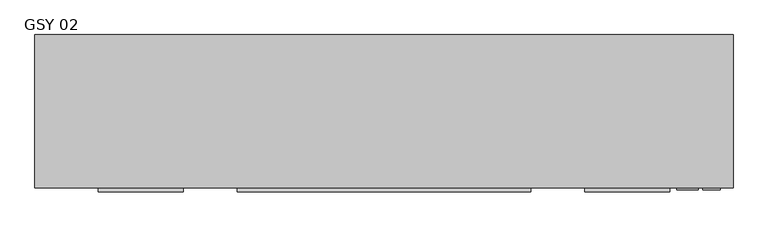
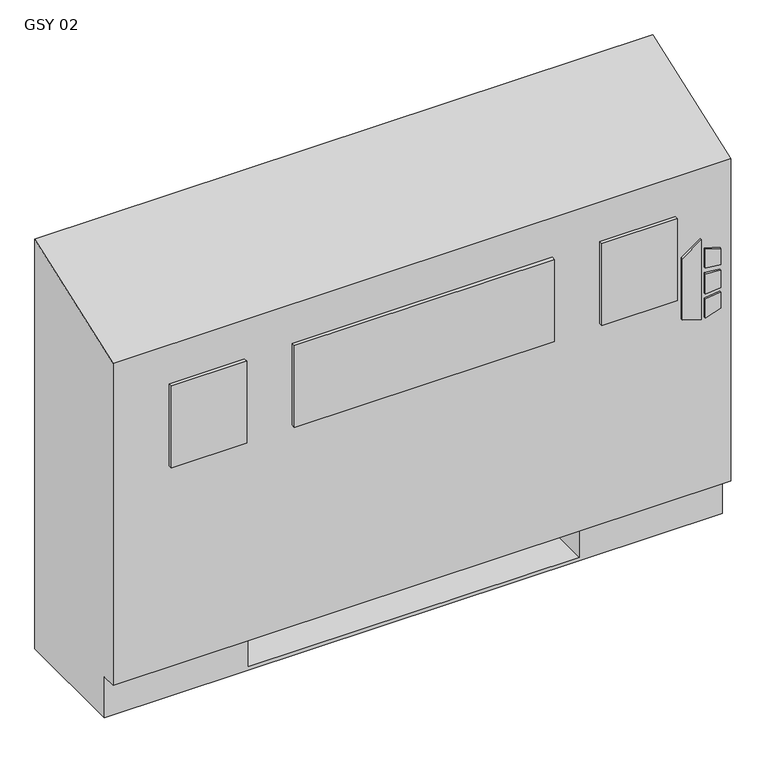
"""IFC4 building model written with IfcOpenShell, lengths in millimetres: proxy geometry, Vertical_Fan_Coil_Unit_-_GSY_-_IEC_-_2-Pipe_FS-FR_RH_2022 : GSY 02."""

from ifc_helpers import new_model, si_unit, point, frame, frame_2d, origin, place, context, project, spatial, polyline, circle_curve, trimmed, segment, composite_curve, outline, extrude, source, transform, mapped, element, save
from ifc_brep_helpers import plane_surface, revolved_surface, advanced_brep


def gsy_02_40d96003(model_context):
    return source(origin(), model_context, "Body", "SolidModel", [
        extrude(outline(polyline([(391.6086829, 589.0368862), (381.6606126, 621.2102728), (523.831537, 621.2102728), (500.8095309, 589.0368862), (391.6086829, 589.0368862)])), frame((0.0, 12.7, 0.0), z_axis=(0.0, 1.0, 0.0), x_axis=(0.0, 0.0, 1.0)), (0.0, 0.0, 1.0), 3.175),
        extrude(outline(polyline([(470.6079683, 627.9686058), (467.4055757, 654.05), (496.6344168, 654.05), (504.6988318, 627.9686058), (470.6079683, 627.9686058)])), frame((0.0, 12.7, 0.0), z_axis=(0.0, 1.0, 0.0), x_axis=(0.0, 0.0, 1.0)), (0.0, 0.0, 1.0), 3.175),
        extrude(outline(polyline([(418.7444414, 654.05), (415.0789404, 627.9686058), (381.6606126, 627.9686058), (390.2948498, 654.05), (418.7444414, 654.05)])), frame((0.0, 12.7, 0.0), z_axis=(0.0, 1.0, 0.0), x_axis=(0.0, 0.0, 1.0)), (0.0, 0.0, 1.0), 3.175),
        extrude(outline(polyline([(458.0596028, 654.05), (460.3414292, 627.9686058), (424.4038806, 627.9686058), (427.1451456, 654.05), (458.0596028, 654.05)])), frame((0.0, 12.7, 0.0), z_axis=(0.0, 1.0, 0.0), x_axis=(0.0, 0.0, 1.0)), (0.0, 0.0, 1.0), 3.175),
        extrude(outline(polyline([(-147.193, 9.525), (-274.193, 9.525), (-274.193, 15.875), (-147.193, 15.875), (-147.193, 9.525)])), frame((0.0, 0.0, 431.8), z_axis=(0.0, 0.0, 1.0), x_axis=(1.0, 0.0, 0.0)), (0.0, 0.0, 1.0), 146.05),
        extrude(outline(polyline([(371.475, 9.525), (-66.675, 9.525), (-66.675, 15.875), (371.475, 15.875), (371.475, 9.525)])), frame((0.0, 0.0, 431.8), z_axis=(0.0, 0.0, 1.0), x_axis=(1.0, 0.0, 0.0)), (0.0, 0.0, 1.0), 146.05),
        extrude(outline(polyline([(578.993, 9.525), (451.993, 9.525), (451.993, 15.875), (578.993, 15.875), (578.993, 9.525)])), frame((0.0, 0.0, 431.8), z_axis=(0.0, 0.0, 1.0), x_axis=(1.0, 0.0, 0.0)), (0.0, 0.0, 1.0), 146.05),
        extrude(outline(polyline([(-247.65, 81.534), (-247.65, 223.266), (-127.0, 223.266), (-127.0, 81.534), (-247.65, 81.534)])), frame((0.0, 0.0, 327.025), z_axis=(0.0, 0.0, 1.0), x_axis=(1.0, 0.0, 0.0)), (0.0, 0.0, 1.0), 260.35),
        extrude(outline(composite_curve([segment(trimmed(circle_curve(frame_2d((80.645, 397.002)), 7.9375), [point((80.645, 404.9395))], [point((80.645, 389.0645))], False, "CARTESIAN"), True, "CONTINUOUS"), segment(trimmed(circle_curve(frame_2d((80.645, 397.002)), 7.9375), [point((80.645, 389.0645))], [point((80.645, 404.9395))], False, "CARTESIAN"), True, "CONTINUOUS")], self_intersect=False)), frame((431.8, 0.0, 0.0), z_axis=(1.0, 0.0, 0.0), x_axis=(0.0, 1.0, 0.0)), (0.0, 0.0, 1.0), 50.8),
        extrude(outline(composite_curve([segment(trimmed(circle_curve(frame_2d((156.8958, 535.8892)), 7.9375), [point((156.8958, 543.8267))], [point((156.8958, 527.9517))], False, "CARTESIAN"), True, "CONTINUOUS"), segment(trimmed(circle_curve(frame_2d((156.8958, 535.8892)), 7.9375), [point((156.8958, 527.9517))], [point((156.8958, 543.8267))], False, "CARTESIAN"), True, "CONTINUOUS")], self_intersect=False)), frame((431.8, 0.0, 0.0), z_axis=(1.0, 0.0, 0.0), x_axis=(0.0, 1.0, 0.0)), (0.0, 0.0, 1.0), 50.8),
        advanced_brep(
        [(-368.3, 244.475, 0.0), (673.1, 244.475, 0.0), (673.1, 41.275, 0.0), (-368.3, 41.275, 0.0), (-368.3, 244.475, 730.25), (673.1, 244.475, 730.25), (431.8, 244.475, 73.025), (660.4, 244.475, 73.025), (660.4, 244.475, 654.05), (431.8, 244.475, 654.05), (431.8, 244.475, 414.8650565), (460.375, 244.475, 414.8650565), (460.375, 244.475, 385.2349435), (431.8, 244.475, 385.2349435), (431.8, 244.475, 287.3375), (460.375, 244.475, 287.3375), (460.375, 244.475, 258.7625), (431.8, 244.475, 258.7625), (431.8, 244.475, 141.2875), (460.375, 244.475, 141.2875), (460.375, 244.475, 112.7125), (431.8, 244.475, 112.7125), (-127.0, 244.475, 654.05), (-355.6, 244.475, 654.05), (-355.6, 244.475, 73.025), (-127.0, 244.475, 73.025), (-127.0, 244.475, 112.7125), (-155.575, 244.475, 112.7125), (-155.575, 244.475, 141.2875), (-127.0, 244.475, 141.2875), (-127.0, 244.475, 258.7625), (-155.575, 244.475, 258.7625), (-155.575, 244.475, 287.3375), (-127.0, 244.475, 287.3375), (-127.0, 244.475, 385.2349435), (-155.575, 244.475, 385.2349435), (-155.575, 244.475, 414.8650565), (-127.0, 244.475, 414.8650565), (450.0626, 244.475, 127.0), (438.9374, 244.475, 127.0), (450.0626, 244.475, 400.05), (438.9374, 244.475, 400.05), (450.0626, 244.475, 273.05), (438.9374, 244.475, 273.05), (-134.1374, 244.475, 127.0), (-145.2626, 244.475, 127.0), (-134.1374, 244.475, 273.05), (-145.2626, 244.475, 273.05), (-134.1374, 244.475, 400.05), (-145.2626, 244.475, 400.05), (-368.3, 41.275, 73.025), (-368.3, 15.875, 73.025), (-368.3, 15.875, 647.7), (673.1, 15.875, 73.025), (673.1, 15.875, 647.7), (673.1, 41.275, 73.025), (-127.0, 41.275, 73.025), (-127.0, 225.425, 73.025), (431.8, 225.425, 73.025), (431.8, 41.275, 73.025), (431.8, 41.275, 6.35), (-127.0, 41.275, 6.35), (431.8, 41.275, 654.05), (660.4, 41.275, 654.05), (660.4, 41.275, 73.025), (431.8, 41.275, 73.025), (-127.0, 41.275, 654.05), (-127.0, 41.275, 73.025), (-355.6, 41.275, 73.025), (-355.6, 41.275, 654.05), (431.8, 225.425, 73.025), (431.8, 238.125, 112.7125), (431.8, 238.125, 141.2875), (431.8, 238.125, 258.7625), (431.8, 238.125, 287.3375), (431.8, 238.125, 385.2349435), (431.8, 238.125, 414.8650565), (-127.0, 225.425, 73.025), (-127.0, 238.125, 414.8650565), (-127.0, 238.125, 385.2349435), (-127.0, 238.125, 287.3375), (-127.0, 238.125, 258.7625), (-127.0, 238.125, 141.2875), (-127.0, 238.125, 112.7125), (-127.0, 225.425, 6.35), (431.8, 225.425, 6.35), (460.375, 238.125, 112.7125), (460.375, 238.125, 141.2875), (438.9374, 238.125, 127.0), (450.0626, 238.125, 127.0), (460.375, 238.125, 258.7625), (460.375, 238.125, 287.3375), (438.9374, 238.125, 273.05), (450.0626, 238.125, 273.05), (460.375, 238.125, 385.2349435), (460.375, 238.125, 414.8650565), (438.9374, 238.125, 400.05), (450.0626, 238.125, 400.05), (-155.575, 238.125, 141.2875), (-155.575, 238.125, 112.7125), (-145.2626, 238.125, 127.0), (-134.1374, 238.125, 127.0), (-155.575, 238.125, 287.3375), (-155.575, 238.125, 258.7625), (-145.2626, 238.125, 273.05), (-134.1374, 238.125, 273.05), (-155.575, 238.125, 414.8650565), (-155.575, 238.125, 385.2349435), (-145.2626, 238.125, 400.05), (-134.1374, 238.125, 400.05)],
        [
            (0, 1),
            (1, 2),
            (2, 3),
            (3, 0),
            (0, 4),
            (4, 5),
            (5, 1),
            (6, 7),
            (7, 8),
            (8, 9),
            (9, 10),
            (10, 11),
            (11, 12),
            (12, 13),
            (13, 14),
            (14, 15),
            (15, 16),
            (16, 17),
            (17, 18),
            (18, 19),
            (19, 20),
            (20, 21),
            (21, 6),
            (22, 23),
            (23, 24),
            (24, 25),
            (25, 26),
            (26, 27),
            (27, 28),
            (28, 29),
            (29, 30),
            (30, 31),
            (31, 32),
            (32, 33),
            (33, 34),
            (34, 35),
            (35, 36),
            (36, 37),
            (37, 22),
            (38, 39, circle_curve(frame((444.5, 244.475, 127.0), z_axis=(0.0, -1.0, 0.0), x_axis=(-1.0, 0.0, 0.0)), 5.5626)),
            (39, 38, circle_curve(frame((444.5, 244.475, 127.0), z_axis=(0.0, -1.0, 0.0), x_axis=(-1.0, 0.0, 0.0)), 5.5626)),
            (40, 41, circle_curve(frame((444.5, 244.475, 400.05), z_axis=(0.0, -1.0, 0.0), x_axis=(-1.0, 0.0, 0.0)), 5.5626)),
            (41, 40, circle_curve(frame((444.5, 244.475, 400.05), z_axis=(0.0, -1.0, 0.0), x_axis=(-1.0, 0.0, 0.0)), 5.5626)),
            (42, 43, circle_curve(frame((444.5, 244.475, 273.05), z_axis=(0.0, -1.0, 0.0), x_axis=(-1.0, 0.0, 0.0)), 5.5626)),
            (43, 42, circle_curve(frame((444.5, 244.475, 273.05), z_axis=(0.0, -1.0, 0.0), x_axis=(-1.0, 0.0, 0.0)), 5.5626)),
            (44, 45, circle_curve(frame((-139.7, 244.475, 127.0), z_axis=(0.0, -1.0, 0.0), x_axis=(-1.0, 0.0, 0.0)), 5.5626)),
            (45, 44, circle_curve(frame((-139.7, 244.475, 127.0), z_axis=(0.0, -1.0, 0.0), x_axis=(-1.0, 0.0, 0.0)), 5.5626)),
            (46, 47, circle_curve(frame((-139.7, 244.475, 273.05), z_axis=(0.0, -1.0, 0.0), x_axis=(-1.0, 0.0, 0.0)), 5.5626)),
            (47, 46, circle_curve(frame((-139.7, 244.475, 273.05), z_axis=(0.0, -1.0, 0.0), x_axis=(-1.0, 0.0, 0.0)), 5.5626)),
            (48, 49, circle_curve(frame((-139.7, 244.475, 400.05), z_axis=(0.0, -1.0, 0.0), x_axis=(-1.0, 0.0, 0.0)), 5.5626)),
            (49, 48, circle_curve(frame((-139.7, 244.475, 400.05), z_axis=(0.0, -1.0, 0.0), x_axis=(-1.0, 0.0, 0.0)), 5.5626)),
            (3, 50),
            (50, 51),
            (51, 52),
            (52, 4),
            (51, 53),
            (53, 54),
            (54, 52),
            (5, 54),
            (53, 55),
            (55, 2),
            (50, 56),
            (56, 57),
            (57, 58),
            (58, 59),
            (59, 55),
            (59, 60),
            (60, 61),
            (61, 56),
            (62, 63),
            (63, 64),
            (64, 65),
            (65, 62),
            (66, 67),
            (67, 68),
            (68, 69),
            (69, 66),
            (65, 70),
            (70, 6),
            (21, 71),
            (71, 72),
            (72, 18),
            (17, 73),
            (73, 74),
            (74, 14),
            (13, 75),
            (75, 76),
            (76, 10),
            (9, 62),
            (64, 7),
            (63, 8),
            (69, 23),
            (22, 66),
            (68, 24),
            (67, 77),
            (77, 25),
            (37, 78),
            (78, 79),
            (79, 34),
            (33, 80),
            (80, 81),
            (81, 30),
            (29, 82),
            (82, 83),
            (83, 26),
            (57, 84),
            (84, 85),
            (85, 58),
            (85, 60),
            (84, 61),
            (71, 86),
            (86, 87),
            (87, 72),
            (88, 89, circle_curve(frame((444.5, 238.125, 127.0), z_axis=(0.0, 1.0, 0.0), x_axis=(-1.0, 0.0, 0.0)), 5.5626)),
            (89, 88, circle_curve(frame((444.5, 238.125, 127.0), z_axis=(0.0, 1.0, 0.0), x_axis=(-1.0, 0.0, 0.0)), 5.5626)),
            (73, 90),
            (90, 91),
            (91, 74),
            (92, 93, circle_curve(frame((444.5, 238.125, 273.05), z_axis=(0.0, 1.0, 0.0), x_axis=(-1.0, 0.0, 0.0)), 5.5626)),
            (93, 92, circle_curve(frame((444.5, 238.125, 273.05), z_axis=(0.0, 1.0, 0.0), x_axis=(-1.0, 0.0, 0.0)), 5.5626)),
            (75, 94),
            (94, 95),
            (95, 76),
            (96, 97, circle_curve(frame((444.5, 238.125, 400.05), z_axis=(0.0, 1.0, 0.0), x_axis=(-1.0, 0.0, 0.0)), 5.5626)),
            (97, 96, circle_curve(frame((444.5, 238.125, 400.05), z_axis=(0.0, 1.0, 0.0), x_axis=(-1.0, 0.0, 0.0)), 5.5626)),
            (98, 99),
            (99, 83),
            (82, 98),
            (100, 101, circle_curve(frame((-139.7, 238.125, 127.0), z_axis=(0.0, 1.0, 0.0), x_axis=(-1.0, 0.0, 0.0)), 5.5626)),
            (101, 100, circle_curve(frame((-139.7, 238.125, 127.0), z_axis=(0.0, 1.0, 0.0), x_axis=(-1.0, 0.0, 0.0)), 5.5626)),
            (102, 103),
            (103, 81),
            (80, 102),
            (104, 105, circle_curve(frame((-139.7, 238.125, 273.05), z_axis=(0.0, 1.0, 0.0), x_axis=(-1.0, 0.0, 0.0)), 5.5626)),
            (105, 104, circle_curve(frame((-139.7, 238.125, 273.05), z_axis=(0.0, 1.0, 0.0), x_axis=(-1.0, 0.0, 0.0)), 5.5626)),
            (106, 107),
            (107, 79),
            (78, 106),
            (108, 109, circle_curve(frame((-139.7, 238.125, 400.05), z_axis=(0.0, 1.0, 0.0), x_axis=(-1.0, 0.0, 0.0)), 5.5626)),
            (109, 108, circle_curve(frame((-139.7, 238.125, 400.05), z_axis=(0.0, 1.0, 0.0), x_axis=(-1.0, 0.0, 0.0)), 5.5626)),
            (87, 19),
            (86, 20),
            (91, 15),
            (90, 16),
            (95, 11),
            (94, 12),
            (28, 98),
            (99, 27),
            (32, 102),
            (103, 31),
            (36, 106),
            (107, 35),
            (88, 39),
            (38, 89),
            (96, 41),
            (40, 97),
            (92, 43),
            (42, 93),
            (100, 45),
            (44, 101),
            (104, 47),
            (46, 105),
            (108, 49),
            (48, 109),
        ],
        [
            plane_surface(frame((-368.3, 244.475, 0.0), z_axis=(0.0, 0.0, -1.0), x_axis=(1.0, 0.0, 0.0))),
            plane_surface(frame((673.1, 244.475, 730.25), z_axis=(0.0, 1.0, 0.0), x_axis=(0.0, 0.0, -1.0))),
            plane_surface(frame((-368.3, 244.475, 730.25), z_axis=(-1.0, 0.0, 0.0), x_axis=(0.0, 0.0, -1.0))),
            plane_surface(frame((-368.3, 15.875, 730.25), z_axis=(0.0, -1.0, 0.0), x_axis=(0.0, 0.0, -1.0))),
            plane_surface(frame((673.1, 15.875, 730.25), z_axis=(1.0, 0.0, 0.0), x_axis=(0.0, 0.0, -1.0))),
            plane_surface(frame((-368.3, 15.875, 73.025), z_axis=(0.0, 0.0, -1.0), x_axis=(1.0, 0.0, 0.0))),
            plane_surface(frame((-368.3, 41.275, 73.025), z_axis=(0.0, -1.0, 0.0), x_axis=(1.0, 0.0, 0.0))),
            plane_surface(frame((431.8, 41.275, 654.05), z_axis=(0.0, 1.0, 0.0), x_axis=(0.0, 0.0, -1.0))),
            plane_surface(frame((431.8, 41.275, 654.05), z_axis=(1.0, 0.0, 0.0), x_axis=(0.0, 1.0, 0.0))),
            plane_surface(frame((431.8, 41.275, 73.025), z_axis=(0.0, 0.0, 1.0), x_axis=(0.0, 1.0, 0.0))),
            plane_surface(frame((660.4, 41.275, 73.025), z_axis=(-1.0, 0.0, 0.0), x_axis=(0.0, 1.0, 0.0))),
            plane_surface(frame((660.4, 41.275, 654.05), z_axis=(0.0, 0.0, -1.0), x_axis=(0.0, 1.0, 0.0))),
            plane_surface(frame((-127.0, 41.275, 654.05), z_axis=(0.0, 0.0, -1.0), x_axis=(0.0, 1.0, 0.0))),
            plane_surface(frame((-355.6, 41.275, 654.05), z_axis=(1.0, 0.0, 0.0), x_axis=(0.0, 1.0, 0.0))),
            plane_surface(frame((-355.6, 41.275, 73.025), z_axis=(0.0, 0.0, 1.0), x_axis=(0.0, 1.0, 0.0))),
            plane_surface(frame((-127.0, 41.275, 73.025), z_axis=(-1.0, 0.0, 0.0), x_axis=(0.0, 1.0, 0.0))),
            plane_surface(frame((431.8, 225.425, 73.025), z_axis=(0.0, -1.0, 0.0), x_axis=(0.0, 0.0, -1.0))),
            plane_surface(frame((431.8, 225.425, 73.025), z_axis=(-1.0, 0.0, 0.0), x_axis=(0.0, -1.0, 0.0))),
            plane_surface(frame((431.8, 225.425, 6.35), z_axis=(0.0, 0.0, 1.0), x_axis=(0.0, -1.0, 0.0))),
            plane_surface(frame((-127.0, 225.425, 6.35), z_axis=(1.0, 0.0, 0.0), x_axis=(0.0, -1.0, 0.0))),
            plane_surface(frame((460.375, 238.125, 141.2875), z_axis=(0.0, -1.0, 0.0), x_axis=(-1.0, 0.0, 0.0))),
            plane_surface(frame((431.8, 244.475, 141.2875), z_axis=(0.0, 0.0, 1.0), x_axis=(0.0, -1.0, 0.0))),
            plane_surface(frame((460.375, 244.475, 141.2875), z_axis=(1.0, 0.0, 0.0), x_axis=(0.0, -1.0, 0.0))),
            plane_surface(frame((460.375, 244.475, 112.7125), z_axis=(0.0, 0.0, -1.0), x_axis=(0.0, -1.0, 0.0))),
            plane_surface(frame((431.8, 244.475, 287.3375), z_axis=(0.0, 0.0, 1.0), x_axis=(0.0, -1.0, 0.0))),
            plane_surface(frame((460.375, 244.475, 287.3375), z_axis=(1.0, 0.0, 0.0), x_axis=(0.0, -1.0, 0.0))),
            plane_surface(frame((460.375, 244.475, 258.7625), z_axis=(0.0, 0.0, -1.0), x_axis=(0.0, -1.0, 0.0))),
            plane_surface(frame((431.8, 244.475, 414.8650565), z_axis=(0.0, 0.0, 1.0), x_axis=(0.0, -1.0, 0.0))),
            plane_surface(frame((460.375, 244.475, 414.8650565), z_axis=(1.0, 0.0, 0.0), x_axis=(0.0, -1.0, 0.0))),
            plane_surface(frame((460.375, 244.475, 385.2349435), z_axis=(0.0, 0.0, -1.0), x_axis=(0.0, -1.0, 0.0))),
            plane_surface(frame((-155.575, 244.475, 141.2875), z_axis=(0.0, 0.0, 1.0), x_axis=(0.0, -1.0, 0.0))),
            plane_surface(frame((-127.0, 244.475, 112.7125), z_axis=(0.0, 0.0, -1.0), x_axis=(0.0, -1.0, 0.0))),
            plane_surface(frame((-155.575, 244.475, 112.7125), z_axis=(-1.0, 0.0, 0.0), x_axis=(0.0, -1.0, 0.0))),
            plane_surface(frame((-155.575, 244.475, 287.3375), z_axis=(0.0, 0.0, 1.0), x_axis=(0.0, -1.0, 0.0))),
            plane_surface(frame((-127.0, 244.475, 258.7625), z_axis=(0.0, 0.0, -1.0), x_axis=(0.0, -1.0, 0.0))),
            plane_surface(frame((-155.575, 244.475, 258.7625), z_axis=(-1.0, 0.0, 0.0), x_axis=(0.0, -1.0, 0.0))),
            plane_surface(frame((-155.575, 244.475, 414.8650565), z_axis=(0.0, 0.0, 1.0), x_axis=(0.0, -1.0, 0.0))),
            plane_surface(frame((-127.0, 244.475, 385.2349435), z_axis=(0.0, 0.0, -1.0), x_axis=(0.0, -1.0, 0.0))),
            plane_surface(frame((-155.575, 244.475, 385.2349435), z_axis=(-1.0, 0.0, 0.0), x_axis=(0.0, -1.0, 0.0))),
            revolved_surface(polyline([(438.9374, 238.125, 127.0), (438.9374, 244.475, 127.0)]), (444.5, 244.475, 127.0), (0.0, -1.0, 0.0)),
            revolved_surface(polyline([(438.9374, 238.125, 400.05), (438.9374, 244.475, 400.05)]), (444.5, 244.475, 400.05), (0.0, -1.0, 0.0)),
            revolved_surface(polyline([(438.9374, 238.125, 273.05), (438.9374, 244.475, 273.05)]), (444.5, 244.475, 273.05), (0.0, -1.0, 0.0)),
            revolved_surface(polyline([(-145.2626, 238.125, 127.0), (-145.2626, 244.475, 127.0)]), (-139.7, 244.475, 127.0), (0.0, -1.0, 0.0)),
            revolved_surface(polyline([(-145.2626, 238.125, 273.05), (-145.2626, 244.475, 273.05)]), (-139.7, 244.475, 273.05), (0.0, -1.0, 0.0)),
            revolved_surface(polyline([(-145.2626, 238.125, 400.05), (-145.2626, 244.475, 400.05)]), (-139.7, 244.475, 400.05), (0.0, -1.0, 0.0)),
            plane_surface(frame((-368.3, 244.475, 730.25), z_axis=(0.0, -0.33964446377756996, 0.9405538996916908), x_axis=(1.0, 0.0, 0.0))),
        ],
        [
            (0, [[1, 2, 3, 4]]),
            (1, [[-1, 5, 6, 7], [8, 9, 10, 11, 12, 13, 14, 15, 16, 17, 18, 19, 20, 21, 22, 23], [24, 25, 26, 27, 28, 29, 30, 31, 32, 33, 34, 35, 36, 37, 38, 39], [40, 41], [42, 43], [44, 45], [46, 47], [48, 49], [50, 51]]),
            (2, [[-5, -4, 52, 53, 54, 55]]),
            (3, [[56, 57, 58, -54]]),
            (4, [[-7, 59, -57, 60, 61, -2]]),
            (5, [[-53, 62, 63, 64, 65, 66, -60, -56]]),
            (6, [[-3, -61, -66, 67, 68, 69, -62, -52]]),
            (7, [[70, 71, 72, 73]]),
            (7, [[74, 75, 76, 77]]),
            (8, [[-73, 78, 79, -23, 80, 81, 82, -19, 83, 84, 85, -15, 86, 87, 88, -11, 89]]),
            (9, [[-72, 90, -8, -79, -78]]),
            (10, [[-71, 91, -9, -90]]),
            (11, [[-70, -89, -10, -91]]),
            (12, [[-77, 92, -24, 93]]),
            (13, [[-76, 94, -25, -92]]),
            (14, [[-75, 95, 96, -26, -94]]),
            (15, [[-74, -93, -39, 97, 98, 99, -35, 100, 101, 102, -31, 103, 104, 105, -27, -96, -95]]),
            (16, [[-64, 106, 107, 108]]),
            (17, [[-108, 109, -67, -65]]),
            (18, [[-107, 110, -68, -109]]),
            (19, [[-106, -63, -69, -110]]),
            (20, [[111, 112, 113, -81], [114, 115]]),
            (20, [[116, 117, 118, -84], [119, 120]]),
            (20, [[121, 122, 123, -87], [124, 125]]),
            (20, [[126, 127, -104, 128], [129, 130]]),
            (20, [[131, 132, -101, 133], [134, 135]]),
            (20, [[136, 137, -98, 138], [139, 140]]),
            (21, [[-113, 141, -20, -82]]),
            (22, [[-112, 142, -21, -141]]),
            (23, [[-111, -80, -22, -142]]),
            (24, [[-118, 143, -16, -85]]),
            (25, [[-117, 144, -17, -143]]),
            (26, [[-116, -83, -18, -144]]),
            (27, [[-123, 145, -12, -88]]),
            (28, [[-122, 146, -13, -145]]),
            (29, [[-121, -86, -14, -146]]),
            (30, [[-128, -103, -30, 147]]),
            (31, [[-127, 148, -28, -105]]),
            (32, [[-126, -147, -29, -148]]),
            (33, [[-133, -100, -34, 149]]),
            (34, [[-132, 150, -32, -102]]),
            (35, [[-131, -149, -33, -150]]),
            (36, [[-138, -97, -38, 151]]),
            (37, [[-137, 152, -36, -99]]),
            (38, [[-136, -151, -37, -152]]),
            (39, [[153, -40, 154, -114]]),
            (39, [[-153, -115, -154, -41]]),
            (40, [[155, -42, 156, -124]]),
            (40, [[-155, -125, -156, -43]]),
            (41, [[157, -44, 158, -119]]),
            (41, [[-157, -120, -158, -45]]),
            (42, [[159, -46, 160, -129]]),
            (42, [[-159, -130, -160, -47]]),
            (43, [[161, -48, 162, -134]]),
            (43, [[-161, -135, -162, -49]]),
            (44, [[163, -50, 164, -139]]),
            (44, [[-163, -140, -164, -51]]),
            (45, [[-6, -55, -58, -59]]),
        ],
    ),
    ])


if __name__ == "__main__":
    model = new_model("IFC4")
    model_context = context("Model", 3, world=origin())
    ifc_project = project(units=[si_unit("LENGTHUNIT", "METRE", prefix="MILLI")], contexts=[model_context])
    site = spatial("IfcSite", under=ifc_project)
    building = spatial("IfcBuilding", under=site)
    placement = place(None, origin())
    gsy_02_shape = gsy_02_40d96003(model_context)
    element("IfcBuildingElementProxy", 1, Name="Vertical_Fan_Coil_Unit_-_GSY_-_IEC_-_2-Pipe_FS-FR_RH_2022 : GSY 02", ObjectType="Vertical_Fan_Coil_Unit_-_GSY_-_IEC_-_2-Pipe_FS-FR_RH_2022 : GSY 02", at=placement, inside=building, context=model_context, shape_type="MappedRepresentation", body=[
        mapped(gsy_02_shape, transform((0.0, 0.0, 0.0), x_axis=(1.0, 0.0, 0.0), y_axis=(0.0, 1.0, 0.0), z_axis=(0.0, 0.0, 1.0))),
    ])
    save(model, "model.ifc")
